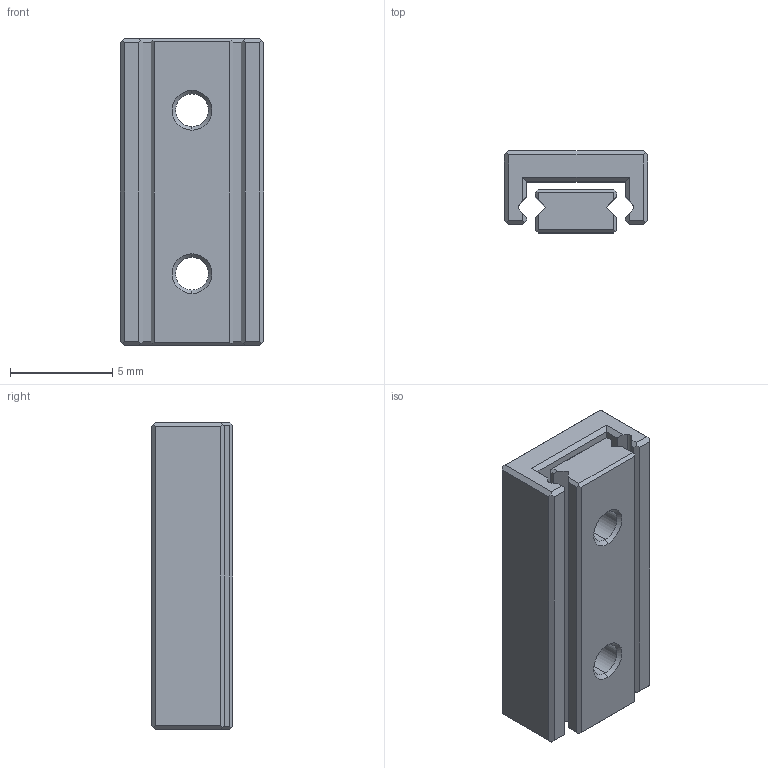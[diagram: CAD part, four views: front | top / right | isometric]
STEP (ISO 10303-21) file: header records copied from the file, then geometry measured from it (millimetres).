
FILE_DESCRIPTION (( 'STEP AP214' ), '1' );
FILE_NAME ('PMM 05-15.STEP', '2012-03-02T10:15:23', ( '' ), ( '' ), 'SwSTEP 2.0', 'SolidWorks 2011', '' );
FILE_SCHEMA (( 'AUTOMOTIVE_DESIGN' ));
Length unit declared in the file: millimetre
Products named in the file (1): PMM 05-15
Bounding box: 7 x 4 x 15 mm (x, y, z)
Volume: 318.7 mm3; surface area: 627 mm2
Topology: 2 solids, 2 shells, 244 faces, 652 edges, 428 vertices
Faces by surface type: plane 174, bspline 43, cone 16, cylinder 11
Entity records: 11385 total; most frequent: CARTESIAN_POINT 3936, ORIENTED_EDGE 1304, DIRECTION 1008, EDGE_CURVE 652, LINE 528, VECTOR 528, VERTEX_POINT 428, EDGE_LOOP 268
